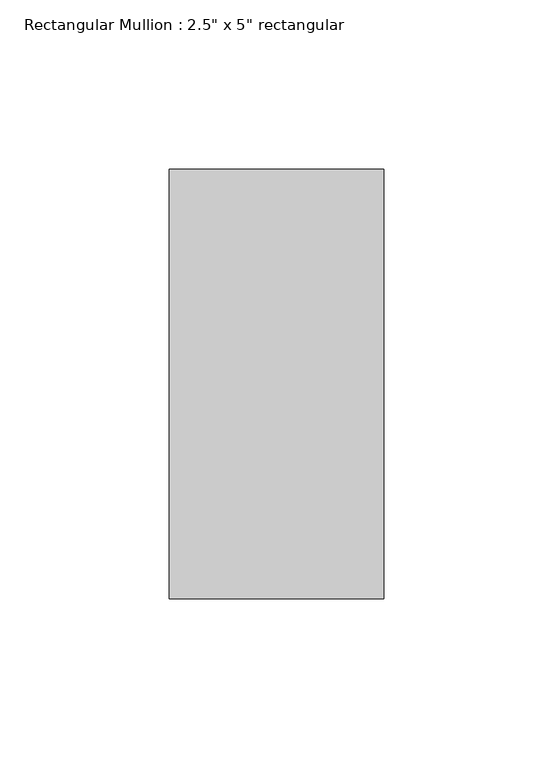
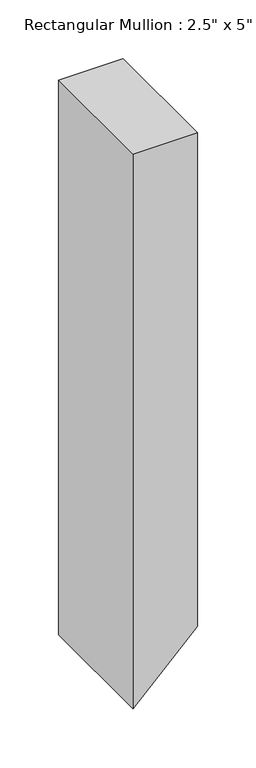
"""IFC4 building model written with IfcOpenShell, lengths in millimetres: member geometry."""

from ifc_helpers import new_model, si_unit, frame, origin, place, context, project, spatial, polyline, outline, extrude, source, transform, mapped, element, save


def member_47a645d3(model_context):
    return source(origin(), model_context, "Body", "SweptSolid", [
        extrude(outline(polyline([(0.0, 31.75), (0.0, -31.75), (-577.85, -31.75), (-514.35, 31.75), (0.0, 31.75)])), frame((0.0, -63.5, 0.0), z_axis=(0.0, 1.0, 0.0), x_axis=(0.0, 0.0, 1.0)), (0.0, 0.0, 1.0), 127.0),
    ])


if __name__ == "__main__":
    model = new_model("IFC4")
    model_context = context("Model", 3, world=origin())
    ifc_project = project(units=[si_unit("LENGTHUNIT", "METRE", prefix="MILLI")], contexts=[model_context])
    site = spatial("IfcSite", under=ifc_project)
    building = spatial("IfcBuilding", under=site)
    placement = place(None, origin())
    member_shape = member_47a645d3(model_context)
    element("IfcMember", 1, ObjectType="Rectangular Mullion : 2.5\" x 5\" rectangular", at=placement, inside=building, context=model_context, shape_type="MappedRepresentation", body=[
        mapped(member_shape, transform((0.0, 0.0, 0.0), x_axis=(1.0, 0.0, 0.0), y_axis=(0.0, 1.0, 0.0), z_axis=(0.0, 0.0, 1.0))),
    ])
    save(model, "model.ifc")
